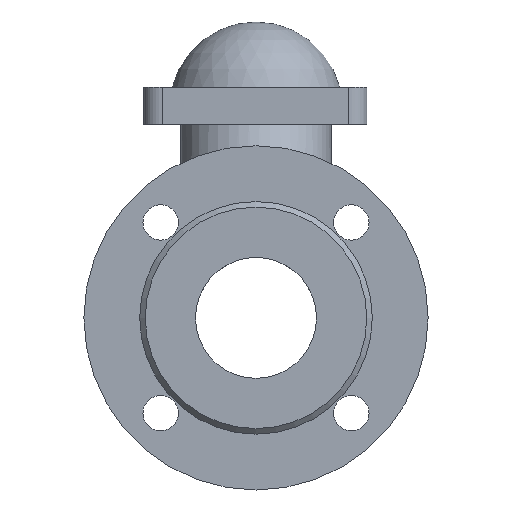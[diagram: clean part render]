
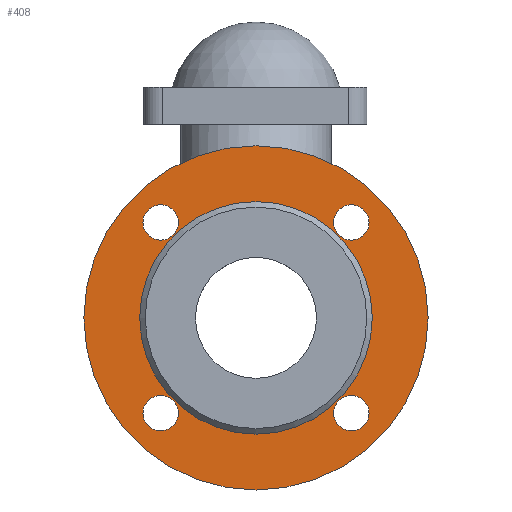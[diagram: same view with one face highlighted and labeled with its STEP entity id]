
A CAD part, front view. The second image highlights one B-rep face of the part: STEP entity #408.
In plain terms, the highlighted planar face has unit normal (0, -1, 0).
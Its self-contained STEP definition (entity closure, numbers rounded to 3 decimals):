
#408=ADVANCED_FACE('',(#1166,#1168,#1170,#1172,#1174,#1176),#1178,.T.);
#1166=FACE_BOUND('',#1167,.T.);
#1167=EDGE_LOOP('',(#1589));
#1168=FACE_BOUND('',#1169,.T.);
#1169=EDGE_LOOP('',(#1590));
#1170=FACE_BOUND('',#1171,.T.);
#1171=EDGE_LOOP('',(#1591));
#1172=FACE_BOUND('',#1173,.T.);
#1173=EDGE_LOOP('',(#1592));
#1174=FACE_BOUND('',#1175,.T.);
#1175=EDGE_LOOP('',(#1593));
#1176=FACE_BOUND('',#1177,.T.);
#1177=EDGE_LOOP('',(#1594));
#1178=PLANE('',#1179);
#1179=AXIS2_PLACEMENT_3D('',#1180,#1181,#1182);
#1180=CARTESIAN_POINT('',(0.,-117.,0.));
#1181=DIRECTION('',(0.,-1.,0.));
#1182=DIRECTION('',(0.,0.,1.));
#1589=ORIENTED_EDGE('',*,*,#1803,.F.);
#1590=ORIENTED_EDGE('',*,*,#1807,.T.);
#1591=ORIENTED_EDGE('',*,*,#1806,.T.);
#1592=ORIENTED_EDGE('',*,*,#1805,.T.);
#1593=ORIENTED_EDGE('',*,*,#1814,.T.);
#1594=ORIENTED_EDGE('',*,*,#1804,.T.);
#1803=EDGE_CURVE('',#2009,#2009,#2010,.T.);
#1804=EDGE_CURVE('',#2011,#2011,#2012,.F.);
#1805=EDGE_CURVE('',#2013,#2013,#2014,.F.);
#1806=EDGE_CURVE('',#2015,#2015,#2016,.F.);
#1807=EDGE_CURVE('',#2017,#2017,#2018,.F.);
#1814=EDGE_CURVE('',#2031,#2031,#2032,.T.);
#2009=VERTEX_POINT('',#2864);
#2010=CIRCLE('',#2865,92.5);
#2011=VERTEX_POINT('',#2869);
#2012=CIRCLE('',#2870,9.5);
#2013=VERTEX_POINT('',#2874);
#2014=CIRCLE('',#2875,9.5);
#2015=VERTEX_POINT('',#2879);
#2016=CIRCLE('',#2880,9.5);
#2017=VERTEX_POINT('',#2884);
#2018=CIRCLE('',#2885,9.5);
#2031=VERTEX_POINT('',#2919);
#2032=CIRCLE('',#2920,62.5);
#2864=CARTESIAN_POINT('',(0.,-117.,92.5));
#2865=AXIS2_PLACEMENT_3D('',#2866,#2867,#2868);
#2866=CARTESIAN_POINT('',(0.,-117.,0.));
#2867=DIRECTION('',(0.,1.,0.));
#2868=DIRECTION('',(0.,0.,1.));
#2869=CARTESIAN_POINT('',(-41.765,-117.,51.265));
#2870=AXIS2_PLACEMENT_3D('',#2871,#2872,#2873);
#2871=CARTESIAN_POINT('',(-51.265,-117.,51.265));
#2872=DIRECTION('',(0.,-1.,0.));
#2873=DIRECTION('',(1.,0.,0.));
#2874=CARTESIAN_POINT('',(-51.265,-117.,-41.765));
#2875=AXIS2_PLACEMENT_3D('',#2876,#2877,#2878);
#2876=CARTESIAN_POINT('',(-51.265,-117.,-51.265));
#2877=DIRECTION('',(0.,-1.,0.));
#2878=DIRECTION('',(0.,0.,1.));
#2879=CARTESIAN_POINT('',(41.765,-117.,-51.265));
#2880=AXIS2_PLACEMENT_3D('',#2881,#2882,#2883);
#2881=CARTESIAN_POINT('',(51.265,-117.,-51.265));
#2882=DIRECTION('',(0.,-1.,0.));
#2883=DIRECTION('',(-1.,0.,0.));
#2884=CARTESIAN_POINT('',(51.265,-117.,41.765));
#2885=AXIS2_PLACEMENT_3D('',#2886,#2887,#2888);
#2886=CARTESIAN_POINT('',(51.265,-117.,51.265));
#2887=DIRECTION('',(0.,-1.,0.));
#2888=DIRECTION('',(0.,0.,-1.));
#2919=CARTESIAN_POINT('',(0.,-117.,62.5));
#2920=AXIS2_PLACEMENT_3D('',#2921,#2922,#2923);
#2921=CARTESIAN_POINT('',(0.,-117.,0.));
#2922=DIRECTION('',(0.,1.,0.));
#2923=DIRECTION('',(0.,0.,1.));
